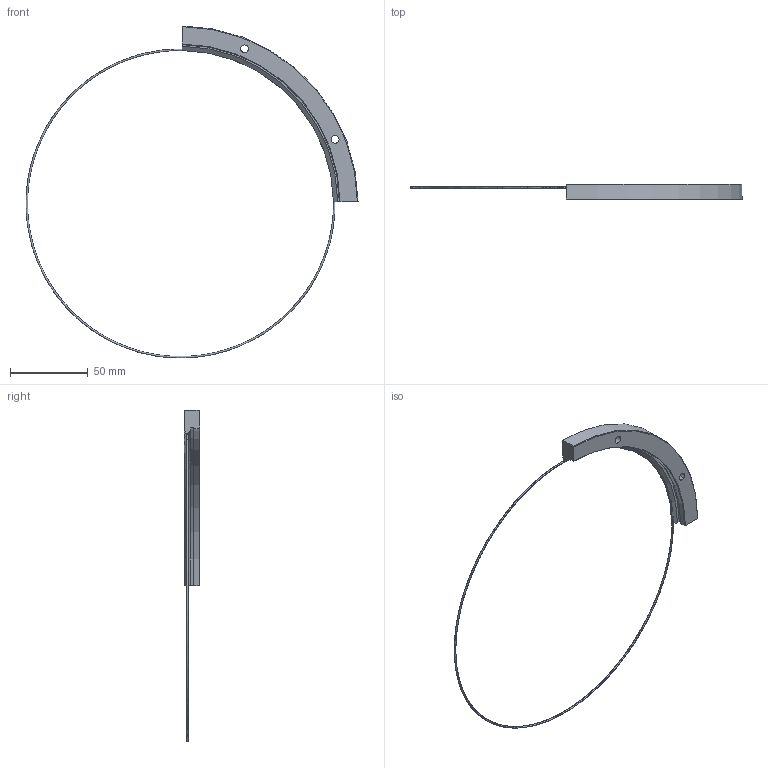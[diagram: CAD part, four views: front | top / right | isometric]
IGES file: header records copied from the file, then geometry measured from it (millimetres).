
Start section: 3D InterOp IGES (v. 2019 1.0.2), Spatial Corp. Copyright (c) 1999-2017.
Global section: file name: RIV 228 R190.igs; native system: Spatial Corp.; preprocessor: 3D InterOp GENERIC/IGES 3.0; author: Noname; organization: Noname; date: 20220719.140145; units: millimetre
Bounding box: 213.43 x 10 x 213.43 mm (x, y, z)
Surface area: 12572.6 mm2 (no closed solid volume)
Topology: 0 solids, 0 shells, 25 faces, 130 edges, 128 vertices
Faces by surface type: revolution 17, extrusion 8
